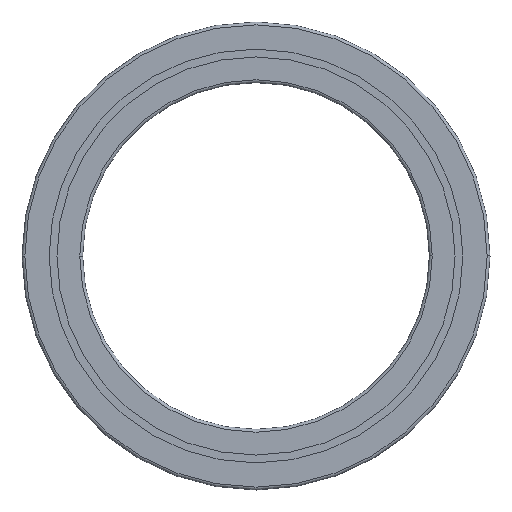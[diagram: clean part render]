
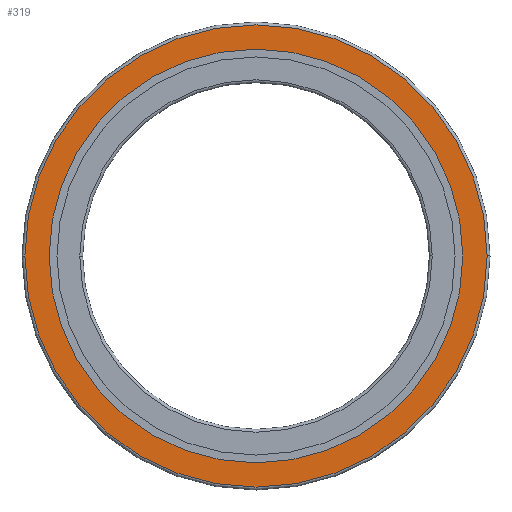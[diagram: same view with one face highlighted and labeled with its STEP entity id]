
A CAD part, front view. The second image highlights one B-rep face of the part: STEP entity #319.
In plain terms, the highlighted planar face has unit normal (0, -1, 0).
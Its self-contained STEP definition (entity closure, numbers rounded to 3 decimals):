
#215=CARTESIAN_POINT('POINT15',(179.,0.,0.
   ));
#216=VERTEX_POINT('VERTEX15',#215);
#223=CARTESIAN_POINT('POINT16',(-179.,0.,
   0.));
#224=VERTEX_POINT('VERTEX16',#223);
#225=CARTESIAN_POINT('POS22',(0.,0.,0.));
#226=DIRECTION('DIR38',(0.,1.,0.));
#227=DIRECTION('DIR39',(1.,0.,0.));
#228=AXIS2_PLACEMENT_3D('AXIS17',#225,#226,#227);
#229=CIRCLE('ELLIPSE11',#228,179.);
#230=EDGE_CURVE('EDGE22',#224,#216,#229,.T.);
#250=EDGE_CURVE('EDGE24',#216,#224,#229,.T.);
#295=CARTESIAN_POINT('POINT19',(200.,0.,
   0.));
#296=VERTEX_POINT('VERTEX19',#295);
#297=CARTESIAN_POINT('POINT20',(-200.,0.,
   0.));
#298=VERTEX_POINT('VERTEX20',#297);
#299=CARTESIAN_POINT('POS29',(0.,0.,0.));
#300=DIRECTION('DIR49',(0.,1.,0.));
#301=DIRECTION('DIR50',(1.,0.,0.));
#302=AXIS2_PLACEMENT_3D('AXIS21',#299,#300,#301);
#303=CIRCLE('ELLIPSE13',#302,200.);
#304=EDGE_CURVE('EDGE29',#296,#298,#303,.T.);
#305=ORIENTED_EDGE('COEDGE53',*,*,#304,.F.);
#306=EDGE_CURVE('EDGE30',#298,#296,#303,.T.);
#307=ORIENTED_EDGE('COEDGE54',*,*,#306,.F.);
#308=EDGE_LOOP('NONE',(#305,#307));
#309=FACE_BOUND('LOOP1',#308,.T.);
#310=ORIENTED_EDGE('COEDGE55',*,*,#250,.T.);
#311=ORIENTED_EDGE('COEDGE56',*,*,#230,.T.);
#312=EDGE_LOOP('NONE',(#310,#311));
#313=FACE_BOUND('LOOP1',#312,.T.);
#314=CARTESIAN_POINT('POS30',(189.5,0.,0.)
   );
#315=DIRECTION('DIR51',(0.,-1.,0.));
#316=DIRECTION('DIR52',(1.,0.,0.));
#317=AXIS2_PLACEMENT_3D('AXIS22',#314,#315,#316);
#318=PLANE('PLANE4',#317);
#319=ADVANCED_FACE('FACE14',(#309,#313),#318,.T.);
